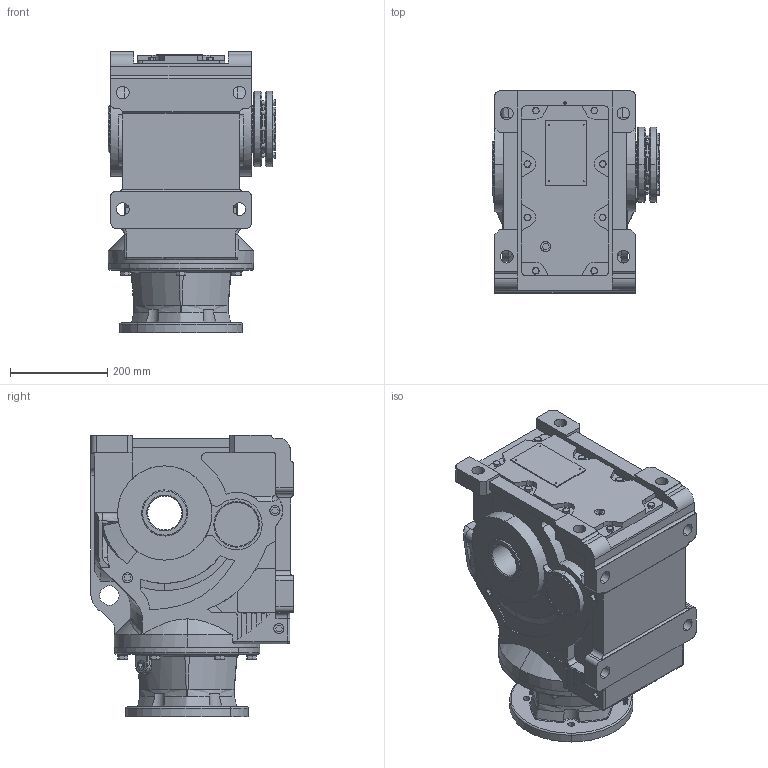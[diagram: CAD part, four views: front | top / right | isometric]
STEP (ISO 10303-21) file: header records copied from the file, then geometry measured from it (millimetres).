
FILE_DESCRIPTION (( 'STEP AP203' ), '1' );
FILE_NAME ('KHN97-254TC-A-POWER LOCK.STEP', '2020-12-04T06:19:40', ( 'Microsoft' ), ( 'Microsoft' ), 'SwSTEP 2.0', 'SolidWorks 2012', '' );
FILE_SCHEMA (( 'CONFIG_CONTROL_DESIGN' ));
Products named in the file (1): KHN97-254TC-A-POWER LOCK
Bounding box: 345 x 417.5 x 579.5 mm (x, y, z)
Volume: 43147974 mm3; surface area: 1503537.6 mm2
Topology: 2 solids, 26 shells, 1754 faces, 4416 edges, 2794 vertices
Faces by surface type: plane 749, cylinder 464, cone 354, bspline 142, torus 43, sphere 2
Entity records: 63465 total; most frequent: CARTESIAN_POINT 22011, ORIENTED_EDGE 8716, DIRECTION 8377, EDGE_CURVE 4358, AXIS2_PLACEMENT_3D 3070, VERTEX_POINT 2794, VECTOR 2237, LINE 2237
